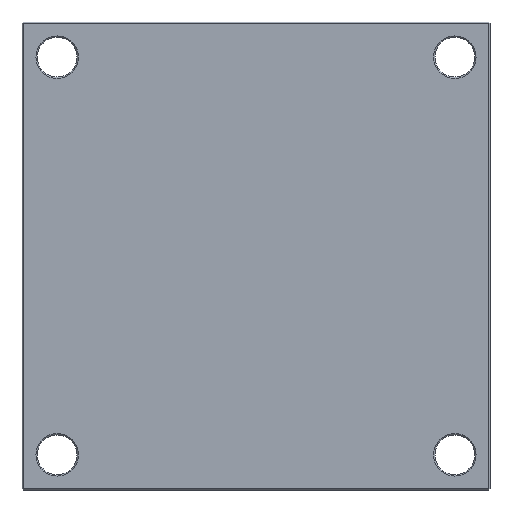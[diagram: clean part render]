
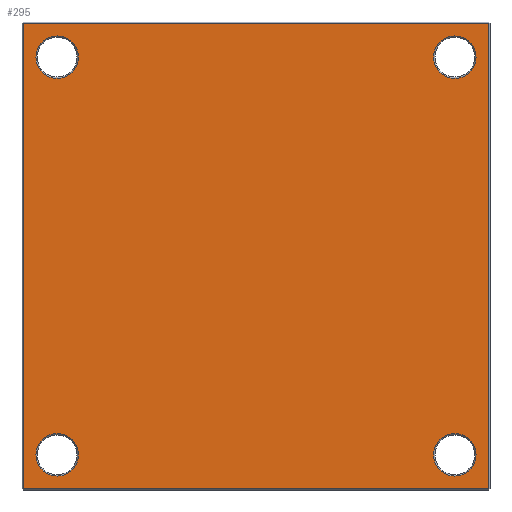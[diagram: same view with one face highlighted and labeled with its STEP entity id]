
A CAD part, front view. The second image highlights one B-rep face of the part: STEP entity #295.
In plain terms, the highlighted planar face has unit normal (0, -1, 0).
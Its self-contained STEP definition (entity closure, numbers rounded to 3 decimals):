
#3 = ORIENTED_EDGE ( 'NONE', *, *, #1189, .T. ) ;
#5 = AXIS2_PLACEMENT_3D ( 'NONE', #535, #512, #498 ) ;
#9 = AXIS2_PLACEMENT_3D ( 'NONE', #599, #367, #1575 ) ;
#19 = AXIS2_PLACEMENT_3D ( 'NONE', #188, #280, #637 ) ;
#29 = AXIS2_PLACEMENT_3D ( 'NONE', #688, #680, #669 ) ;
#53 = ORIENTED_EDGE ( 'NONE', *, *, #841, .T. ) ;
#107 = EDGE_LOOP ( 'NONE', ( #1767, #1695 ) ) ;
#116 = VERTEX_POINT ( 'NONE', #587 ) ;
#178 = EDGE_LOOP ( 'NONE', ( #1496, #1590 ) ) ;
#188 = CARTESIAN_POINT ( 'NONE',  ( 147., 0., -147. ) ) ;
#230 = PLANE ( 'NONE',  #552 ) ;
#262 = LINE ( 'NONE', #1686, #2054 ) ;
#280 = DIRECTION ( 'NONE',  ( 0., 1., 0. ) ) ;
#295 = ADVANCED_FACE ( 'NONE', ( #1801, #1298, #1754, #2172, #338 ), #230, .F. ) ;
#296 = VERTEX_POINT ( 'NONE', #1318 ) ;
#326 = DIRECTION ( 'NONE',  ( 1., 0., 0. ) ) ;
#334 = DIRECTION ( 'NONE',  ( 0., 0., -1. ) ) ;
#338 = FACE_OUTER_BOUND ( 'NONE', #1337, .T. ) ;
#356 = CIRCLE ( 'NONE', #29, 15.7 ) ;
#367 = DIRECTION ( 'NONE',  ( 0., 1., 0. ) ) ;
#381 = CARTESIAN_POINT ( 'NONE',  ( 0., 0., 0. ) ) ;
#382 = CARTESIAN_POINT ( 'NONE',  ( 147., 0., 131.3 ) ) ;
#395 = DIRECTION ( 'NONE',  ( 0., 1., 0. ) ) ;
#411 = CARTESIAN_POINT ( 'NONE',  ( -147., 0., -131.3 ) ) ;
#412 = CARTESIAN_POINT ( 'NONE',  ( 0., 0., 172. ) ) ;
#418 = CARTESIAN_POINT ( 'NONE',  ( 172., 0., 172. ) ) ;
#420 = VERTEX_POINT ( 'NONE', #724 ) ;
#422 = CARTESIAN_POINT ( 'NONE',  ( -172., 0., -172. ) ) ;
#453 = AXIS2_PLACEMENT_3D ( 'NONE', #1119, #1066, #1063 ) ;
#454 = DIRECTION ( 'NONE',  ( -1., 0., 0. ) ) ;
#489 = CARTESIAN_POINT ( 'NONE',  ( 0., 0., -172. ) ) ;
#490 = VERTEX_POINT ( 'NONE', #422 ) ;
#493 = AXIS2_PLACEMENT_3D ( 'NONE', #2154, #583, #1134 ) ;
#498 = DIRECTION ( 'NONE',  ( 0., 0., 1. ) ) ;
#512 = DIRECTION ( 'NONE',  ( 0., 1., 0. ) ) ;
#535 = CARTESIAN_POINT ( 'NONE',  ( -147., 0., 147. ) ) ;
#540 = ORIENTED_EDGE ( 'NONE', *, *, #621, .T. ) ;
#552 = AXIS2_PLACEMENT_3D ( 'NONE', #381, #395, #1836 ) ;
#583 = DIRECTION ( 'NONE',  ( 0., 1., 0. ) ) ;
#587 = CARTESIAN_POINT ( 'NONE',  ( 172., 0., -172. ) ) ;
#599 = CARTESIAN_POINT ( 'NONE',  ( 147., 0., 147. ) ) ;
#621 = EDGE_CURVE ( 'NONE', #420, #2077, #1985, .T. ) ;
#633 = EDGE_LOOP ( 'NONE', ( #540, #1668 ) ) ;
#637 = DIRECTION ( 'NONE',  ( 0., 0., 1. ) ) ;
#642 = EDGE_CURVE ( 'NONE', #1405, #969, #887, .T. ) ;
#657 = CARTESIAN_POINT ( 'NONE',  ( 172., 0., 0. ) ) ;
#669 = DIRECTION ( 'NONE',  ( 0., 0., 1. ) ) ;
#680 = DIRECTION ( 'NONE',  ( 0., 1., 0. ) ) ;
#688 = CARTESIAN_POINT ( 'NONE',  ( -147., 0., -147. ) ) ;
#723 = LINE ( 'NONE', #489, #2100 ) ;
#724 = CARTESIAN_POINT ( 'NONE',  ( -147., 0., -162.7 ) ) ;
#725 = DIRECTION ( 'NONE',  ( 0., 0., 1. ) ) ;
#744 = DIRECTION ( 'NONE',  ( 0., 0., 1. ) ) ;
#783 = LINE ( 'NONE', #412, #1271 ) ;
#784 = DIRECTION ( 'NONE',  ( 0., 1., 0. ) ) ;
#795 = CARTESIAN_POINT ( 'NONE',  ( 147., 0., 147. ) ) ;
#809 = ORIENTED_EDGE ( 'NONE', *, *, #881, .T. ) ;
#827 = EDGE_CURVE ( 'NONE', #2077, #420, #356, .T. ) ;
#831 = EDGE_CURVE ( 'NONE', #969, #1405, #2140, .T. ) ;
#832 = EDGE_CURVE ( 'NONE', #2044, #874, #1724, .T. ) ;
#841 = EDGE_CURVE ( 'NONE', #1031, #1174, #884, .T. ) ;
#861 = EDGE_CURVE ( 'NONE', #116, #2065, #1674, .T. ) ;
#870 = EDGE_CURVE ( 'NONE', #2065, #296, #783, .T. ) ;
#874 = VERTEX_POINT ( 'NONE', #382 ) ;
#877 = EDGE_CURVE ( 'NONE', #296, #490, #262, .T. ) ;
#881 = EDGE_CURVE ( 'NONE', #490, #116, #723, .T. ) ;
#884 = CIRCLE ( 'NONE', #5, 15.7 ) ;
#887 = CIRCLE ( 'NONE', #453, 15.7 ) ;
#909 = CARTESIAN_POINT ( 'NONE',  ( -147., 0., 162.7 ) ) ;
#969 = VERTEX_POINT ( 'NONE', #2119 ) ;
#1013 = CARTESIAN_POINT ( 'NONE',  ( 147., 0., -162.7 ) ) ;
#1019 = EDGE_CURVE ( 'NONE', #874, #2044, #1819, .T. ) ;
#1031 = VERTEX_POINT ( 'NONE', #909 ) ;
#1063 = DIRECTION ( 'NONE',  ( 0., 0., 1. ) ) ;
#1066 = DIRECTION ( 'NONE',  ( 0., 1., 0. ) ) ;
#1119 = CARTESIAN_POINT ( 'NONE',  ( 147., 0., -147. ) ) ;
#1134 = DIRECTION ( 'NONE',  ( 0., 0., 1. ) ) ;
#1164 = AXIS2_PLACEMENT_3D ( 'NONE', #795, #784, #744 ) ;
#1174 = VERTEX_POINT ( 'NONE', #1856 ) ;
#1189 = EDGE_CURVE ( 'NONE', #1174, #1031, #2043, .T. ) ;
#1222 = VECTOR ( 'NONE', #725, 1000. ) ;
#1271 = VECTOR ( 'NONE', #454, 1000. ) ;
#1298 = FACE_BOUND ( 'NONE', #107, .T. ) ;
#1318 = CARTESIAN_POINT ( 'NONE',  ( -172., 0., 172. ) ) ;
#1337 = EDGE_LOOP ( 'NONE', ( #2115, #1449, #1792, #809 ) ) ;
#1405 = VERTEX_POINT ( 'NONE', #1013 ) ;
#1416 = EDGE_LOOP ( 'NONE', ( #3, #53 ) ) ;
#1449 = ORIENTED_EDGE ( 'NONE', *, *, #870, .T. ) ;
#1496 = ORIENTED_EDGE ( 'NONE', *, *, #1019, .T. ) ;
#1546 = AXIS2_PLACEMENT_3D ( 'NONE', #2011, #1934, #1904 ) ;
#1575 = DIRECTION ( 'NONE',  ( 0., 0., 1. ) ) ;
#1590 = ORIENTED_EDGE ( 'NONE', *, *, #832, .T. ) ;
#1668 = ORIENTED_EDGE ( 'NONE', *, *, #827, .T. ) ;
#1674 = LINE ( 'NONE', #657, #1222 ) ;
#1686 = CARTESIAN_POINT ( 'NONE',  ( -172., 0., 0. ) ) ;
#1695 = ORIENTED_EDGE ( 'NONE', *, *, #831, .T. ) ;
#1724 = CIRCLE ( 'NONE', #9, 15.7 ) ;
#1754 = FACE_BOUND ( 'NONE', #178, .T. ) ;
#1767 = ORIENTED_EDGE ( 'NONE', *, *, #642, .T. ) ;
#1792 = ORIENTED_EDGE ( 'NONE', *, *, #877, .T. ) ;
#1801 = FACE_BOUND ( 'NONE', #633, .T. ) ;
#1819 = CIRCLE ( 'NONE', #1164, 15.7 ) ;
#1836 = DIRECTION ( 'NONE',  ( 0., 0., 1. ) ) ;
#1856 = CARTESIAN_POINT ( 'NONE',  ( -147., 0., 131.3 ) ) ;
#1904 = DIRECTION ( 'NONE',  ( 0., 0., 1. ) ) ;
#1934 = DIRECTION ( 'NONE',  ( 0., 1., 0. ) ) ;
#1985 = CIRCLE ( 'NONE', #493, 15.7 ) ;
#2011 = CARTESIAN_POINT ( 'NONE',  ( -147., 0., 147. ) ) ;
#2043 = CIRCLE ( 'NONE', #1546, 15.7 ) ;
#2044 = VERTEX_POINT ( 'NONE', #2149 ) ;
#2054 = VECTOR ( 'NONE', #334, 1000. ) ;
#2065 = VERTEX_POINT ( 'NONE', #418 ) ;
#2077 = VERTEX_POINT ( 'NONE', #411 ) ;
#2100 = VECTOR ( 'NONE', #326, 1000. ) ;
#2115 = ORIENTED_EDGE ( 'NONE', *, *, #861, .T. ) ;
#2119 = CARTESIAN_POINT ( 'NONE',  ( 147., 0., -131.3 ) ) ;
#2140 = CIRCLE ( 'NONE', #19, 15.7 ) ;
#2149 = CARTESIAN_POINT ( 'NONE',  ( 147., 0., 162.7 ) ) ;
#2154 = CARTESIAN_POINT ( 'NONE',  ( -147., 0., -147. ) ) ;
#2172 = FACE_BOUND ( 'NONE', #1416, .T. ) ;
